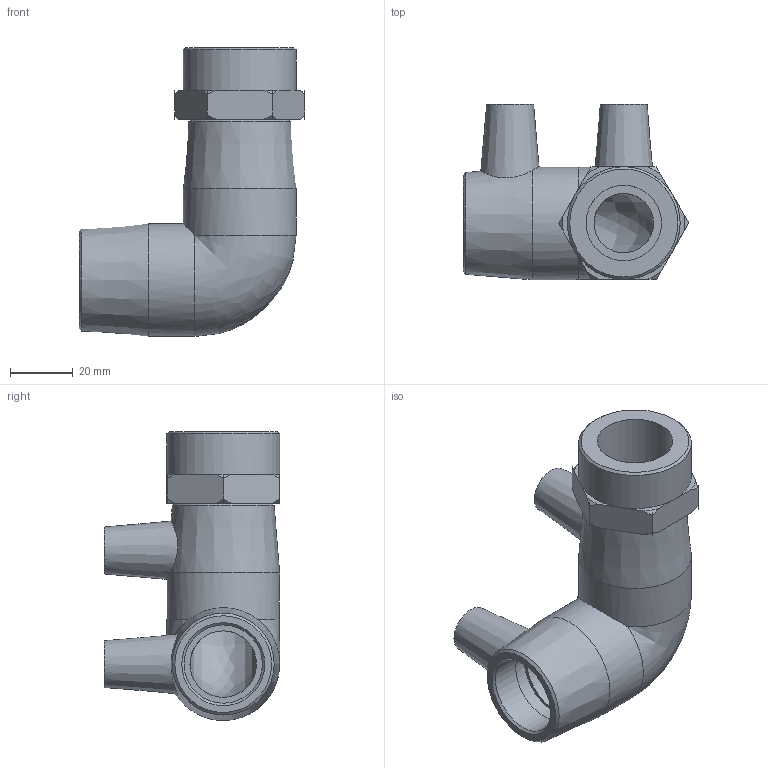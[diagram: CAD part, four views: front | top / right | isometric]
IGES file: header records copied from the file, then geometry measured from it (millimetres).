
Global section: file name: 493504025007.ipt; native system: Autodesk Inventor 2015; preprocessor: unknown; author: KIM; date: 20200202.123446; units: millimetre
Bounding box: 72.08 x 56.05 x 92.3 mm (x, y, z)
Volume: 79240.1 mm3; surface area: 28139.5 mm2
Topology: 1 solids, 2 shells, 78 faces, 205 edges, 138 vertices
Faces by surface type: plane 27, revolution 24, cone 19, cylinder 7, bspline 1
Full cylindrical faces by diameter (mm): 4 x2, 25 x2, 36 x3
